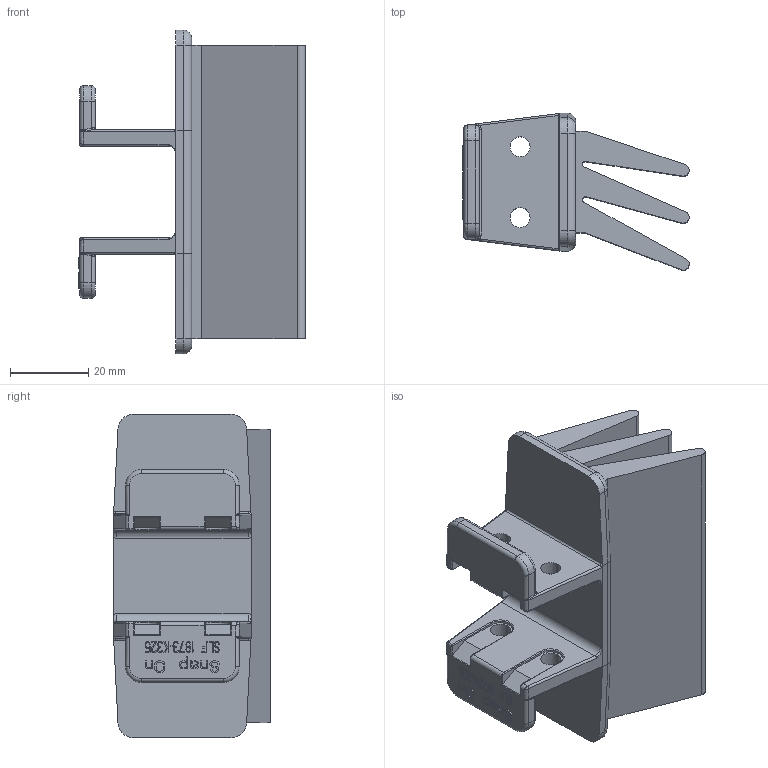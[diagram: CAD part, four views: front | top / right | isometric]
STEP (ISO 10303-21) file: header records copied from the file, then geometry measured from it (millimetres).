
FILE_DESCRIPTION((''),'2;1');
FILE_NAME('K094','2015-12-16T',('bhe'),(''),'CREO PARAMETRIC BY PTC INC, 2015290','CREO PARAMETRIC BY PTC INC, 2015290','');
FILE_SCHEMA(('CONFIG_CONTROL_DESIGN'));
Length unit declared in the file: millimetre
Products named in the file (1): K094
Bounding box: 57.78 x 40.05 x 82.6 mm (x, y, z)
Volume: 55507.9 mm3; surface area: 24071 mm2
Topology: 1 solids, 1 shells, 826 faces, 2290 edges, 1490 vertices
Faces by surface type: plane 667, cylinder 93, bspline 40, torus 26
Entity records: 27876 total; most frequent: CARTESIAN_POINT 6924, ORIENTED_EDGE 4580, DIRECTION 3952, EDGE_CURVE 2290, VECTOR 2000, LINE 2000, VERTEX_POINT 1490, AXIS2_PLACEMENT_3D 976
